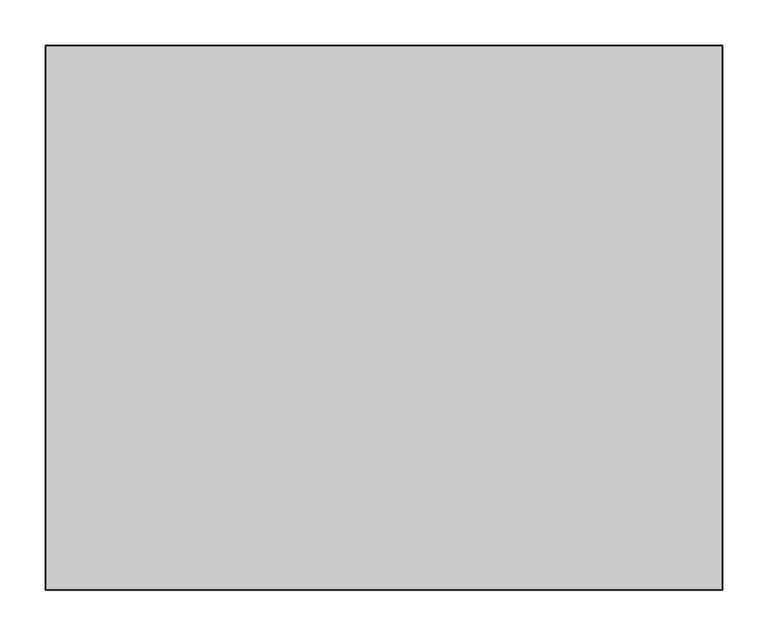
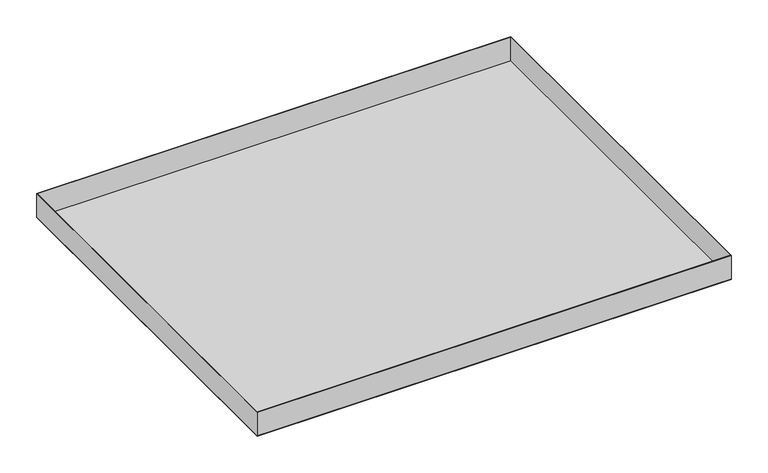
"""IFC4 building model written with IfcOpenShell, lengths in millimetres: proxy geometry, durlum_S55.4-BR_RHOMBOS_panel : durlum_S55.4-BR_RHOMBOS_panel_wall_length_cut."""

from ifc_helpers import new_model, si_unit, frame, origin, origin_with_axes, place, context, project, spatial, polyline, outline, extrude, source, transform, mapped, element, save


def generic_models_7bf1d95b(model_context):
    return source(origin(), model_context, "Body", "SweptSolid", [
        extrude(outline(polyline([(372.5, 299.75), (372.5, -299.75), (-372.5, -299.75), (-372.5, 299.75), (372.5, 299.75)]), holes=[polyline([(371.5, 298.75), (-371.5, 298.75), (-371.5, -298.75), (371.5, -298.75), (371.5, 298.75)])]), frame((0.0, 0.0, 1.0), z_axis=(0.0, 0.0, 1.0), x_axis=(1.0, 0.0, 0.0)), (0.0, 0.0, 1.0), 39.0),
        extrude(outline(polyline([(372.5, 299.75), (372.5, -299.75), (-372.5, -299.75), (-372.5, 299.75), (372.5, 299.75)])), origin_with_axes(), (0.0, 0.0, 1.0), 1.0),
    ])


if __name__ == "__main__":
    model = new_model("IFC4")
    model_context = context("Model", 3, world=origin())
    ifc_project = project(units=[si_unit("LENGTHUNIT", "METRE", prefix="MILLI")], contexts=[model_context])
    site = spatial("IfcSite", under=ifc_project)
    building = spatial("IfcBuilding", under=site)
    placement = place(None, origin())
    generic_models_shape = generic_models_7bf1d95b(model_context)
    element("IfcBuildingElementProxy", 1, Name="durlum_S55.4-BR_RHOMBOS_panel : durlum_S55.4-BR_RHOMBOS_panel_wall_length_cut", ObjectType="durlum_S55.4-BR_RHOMBOS_panel : durlum_S55.4-BR_RHOMBOS_panel_wall_length_cut", at=placement, inside=building, context=model_context, shape_type="MappedRepresentation", body=[
        mapped(generic_models_shape, transform((0.0, 0.0, 0.0), x_axis=(1.0, 0.0, 0.0), y_axis=(0.0, 1.0, 0.0), z_axis=(0.0, 0.0, 1.0))),
    ])
    save(model, "model.ifc")
